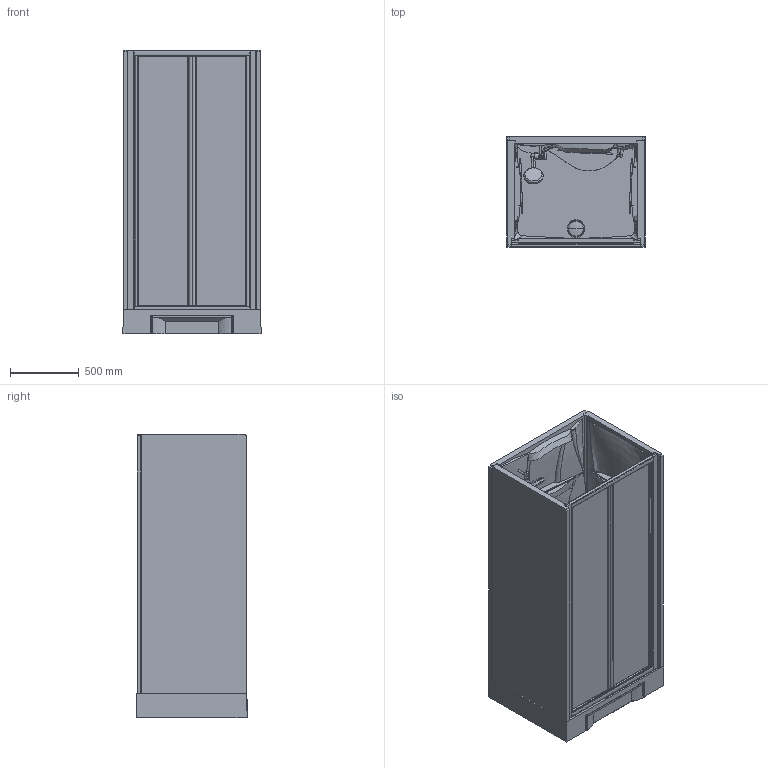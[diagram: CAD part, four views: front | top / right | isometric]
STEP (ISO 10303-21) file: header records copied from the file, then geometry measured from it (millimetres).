
FILE_DESCRIPTION(('STEP AP203'),'2;1');
FILE_NAME('NNH BI 100 M.stp','2015-09-04T15:06:52',(''),(''),'2014.1.117','THINKDESIGN','');
FILE_SCHEMA(('CONFIG_CONTROL_DESIGN'));
Bounding box: 1004.04 x 807.53 x 2063.06 mm (x, y, z)
Volume: 270341407.6 mm3; surface area: 18543219.8 mm2
Topology: 23 solids, 23 shells, 596 faces, 1548 edges, 998 vertices
Faces by surface type: bspline 355, plane 192, cylinder 49
Entity records: 68805 total; most frequent: CARTESIAN_POINT 56893, ORIENTED_EDGE 2990, EDGE_CURVE 1495, DIRECTION 1351, VERTEX_POINT 961, VECTOR 639, LINE 639, EDGE_LOOP 606
